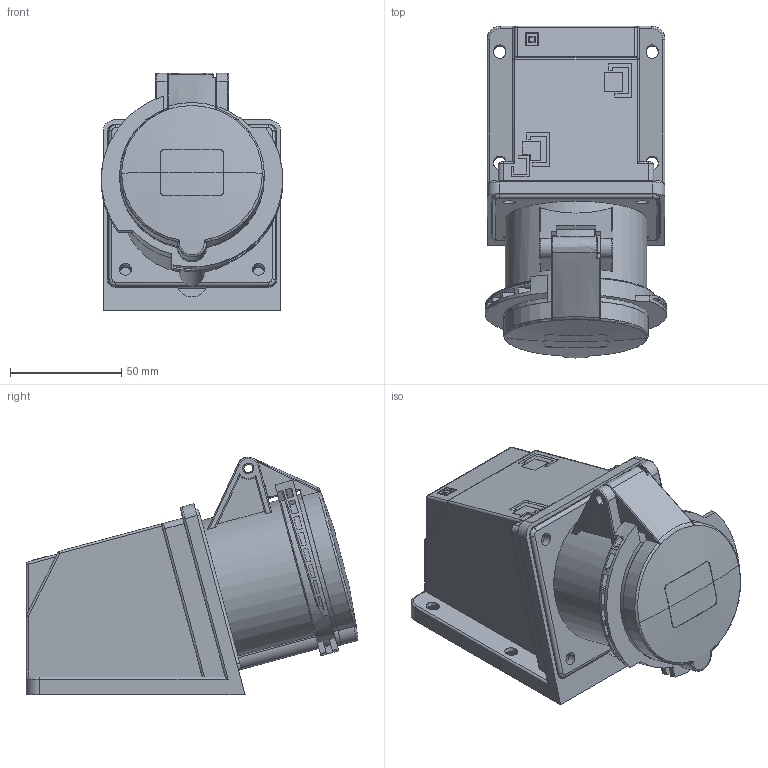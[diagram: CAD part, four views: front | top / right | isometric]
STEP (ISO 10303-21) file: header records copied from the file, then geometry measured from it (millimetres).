
FILE_DESCRIPTION(('FreeCAD Model'),'2;1');
FILE_NAME('Open CASCADE Shape Model','2026-02-04T11:29:43',(''),(''), 'Open CASCADE STEP processor 7.8','FreeCAD','Unknown');
FILE_SCHEMA(('AUTOMOTIVE_DESIGN { 1 0 10303 214 1 1 1 1 }'));
Length unit declared in the file: millimetre
Products named in the file (6): TL3S32443; Base interna; Tampa; Tomada; Estrutura corpo; Terminais
Assembly tree (5 placements, depth 2):
  TL3S32443
    Base interna
    Tampa
    Tomada
    Estrutura corpo
    Terminais
Bounding box: 81.7 x 149.28 x 106.92 mm (x, y, z)
Volume: 302611.9 mm3; surface area: 135854.5 mm2
Topology: 5 solids, 5 shells, 1136 faces, 3065 edges, 2006 vertices
Faces by surface type: plane 651, cylinder 345, bspline 75, torus 41, sphere 15, cone 9
Full cylindrical faces by diameter (mm): 8.5 x1, 10.5 x1, 11 x1
Entity records: 47182 total; most frequent: CARTESIAN_POINT 18770, ORIENTED_EDGE 6124, DIRECTION 5544, EDGE_CURVE 3062, VERTEX_POINT 2006, LINE 1872, VECTOR 1872, AXIS2_PLACEMENT_3D 1836
